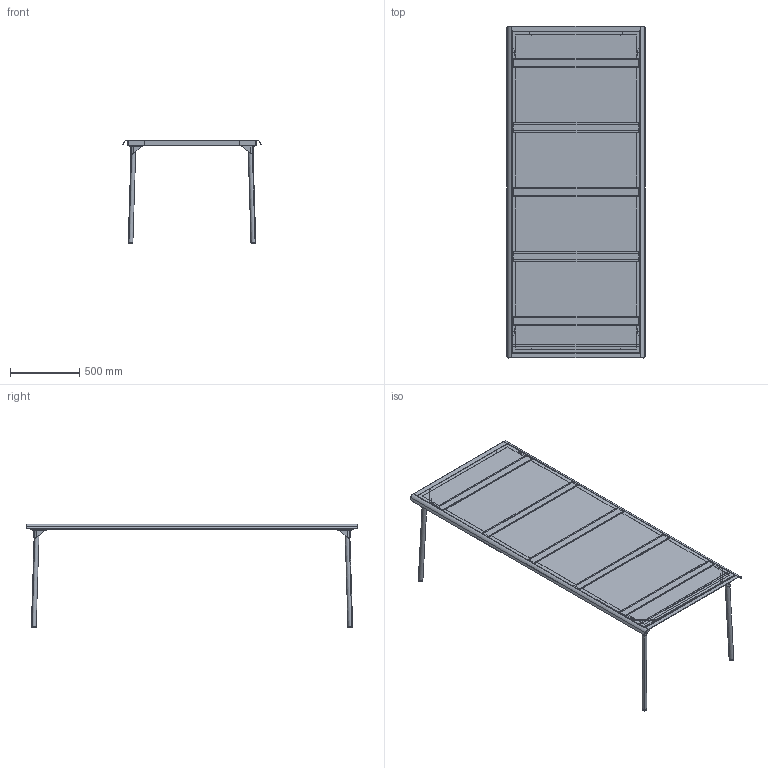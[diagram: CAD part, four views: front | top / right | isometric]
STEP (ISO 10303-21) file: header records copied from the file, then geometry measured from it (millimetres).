
FILE_DESCRIPTION(/* description */ (''),/* implementation_level */ '2;1');
FILE_NAME(/* name */ 'TABLE PATIO 240X100',/* time_stamp */ '2026-03-06T11:43:03+01:00',/* author */ (''),/* organization */ (''),/* preprocessor_version */ 'ST-DEVELOPER v19.2',/* originating_system */ 'Rhino 8.23',/* authorisation */ '');
FILE_SCHEMA (('CONFIG_CONTROL_DESIGN'));
Length unit declared in the file: millimetre
Products named in the file (1): Document
Bounding box: 1000 x 2400 x 750.92 mm (x, y, z)
Surface area: 6957529.5 mm2 (no closed solid volume)
Topology: 0 solids, 56 shells, 373 faces, 1926 edges, 1588 vertices
Faces by surface type: plane 217, cylinder 131, bspline 25
Entity records: 20570 total; most frequent: CARTESIAN_POINT 7644, ORIENTED_EDGE 2345, EDGE_CURVE 1925, DIRECTION 1600, VERTEX_POINT 1588, B_SPLINE_CURVE_WITH_KNOTS 1285, AXIS2_PLACEMENT_3D 974, TRIMMED_CURVE 624
